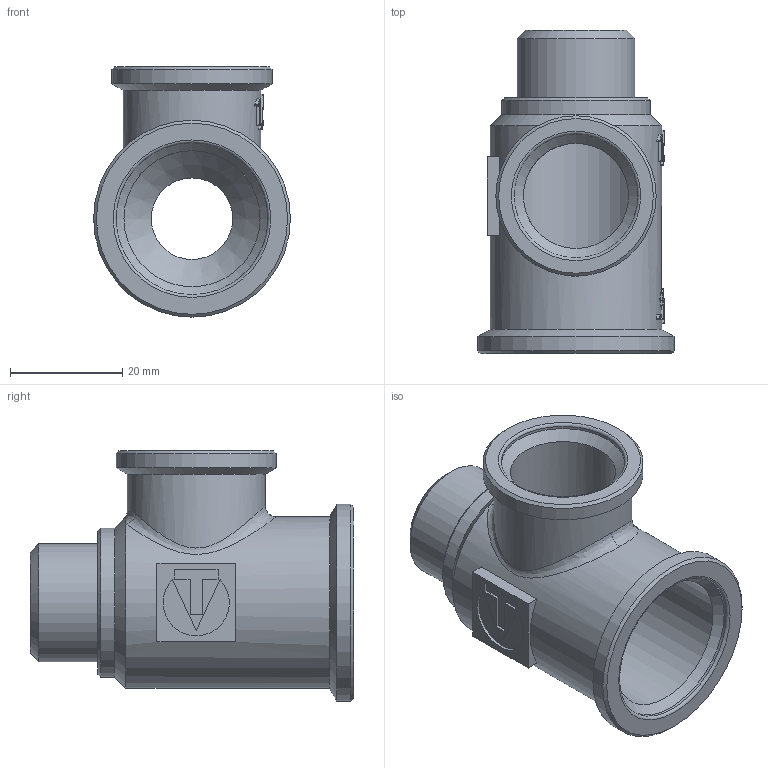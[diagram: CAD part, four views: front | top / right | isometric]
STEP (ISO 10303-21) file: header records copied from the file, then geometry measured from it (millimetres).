
FILE_DESCRIPTION(('STEP AP203'), '1');
FILE_NAME('ÂÐ.752249.013 - VTr.134.RN.050404 - Òðîé. ñ ïåðåõ. íà íàð. ðåçüá', '2024-06-26T08:08:14', ('Boss'), (''), 'C3D Converter', 'C3D Toolkit', '');
FILE_SCHEMA(('CONFIG_CONTROL_DESIGN'));
Length unit declared in the file: millimetre
Products named in the file (1): ВР.752249.013
Bounding box: 35 x 57.5 x 44.5 mm (x, y, z)
Volume: 18256.7 mm3; surface area: 11917 mm2
Topology: 1 solids, 1 shells, 331 faces, 913 edges, 602 vertices
Faces by surface type: extrusion 185, plane 102, cylinder 27, cone 11, bspline 4, torus 2
Full cylindrical faces by diameter (mm): 14.5 x1, 18.7 x1, 20.955 x1, 22 x1, 24.2 x1, 24.5 x1, 26.5 x1, 27 x1, 28.5 x1, 30.5 x1, 35 x1
Entity records: 15220 total; most frequent: CARTESIAN_POINT 7881, ORIENTED_EDGE 1776, DIRECTION 934, EDGE_CURVE 888, VERTEX_POINT 602, B_SPLINE_CURVE_WITH_KNOTS 564, VECTOR 516, EDGE_LOOP 378
